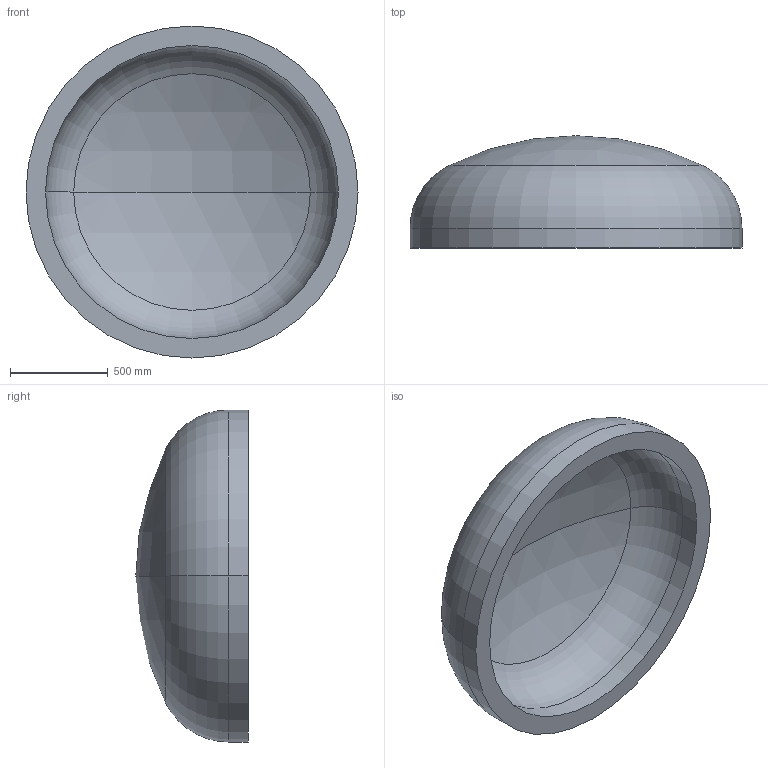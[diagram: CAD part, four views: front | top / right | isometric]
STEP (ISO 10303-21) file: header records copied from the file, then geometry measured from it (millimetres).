
FILE_DESCRIPTION (( 'STEP AP203' ), '1' );
FILE_NAME ('DIN 28013 Korbbogenform_-_Boden DIN 28013 - 1700 x 100 - I - s=100.step', '2016-07-01T12:07:51', ( '' ), ( '' ), 'SwSTEP 2.0', 'SolidWorks 2013', '' );
FILE_SCHEMA (( 'CONFIG_CONTROL_DESIGN' ));
Length unit declared in the file: millimetre
Products named in the file (1): DIN 28013 Korbbogenform_-_Boden DIN 28013 - 1700 x 100 - I - s=100
Bounding box: 1700 x 575.16 x 1700 mm (x, y, z)
Volume: 341485742.8 mm3; surface area: 7353311.9 mm2
Topology: 1 solids, 1 shells, 13 faces, 24 edges, 14 vertices
Faces by surface type: torus 4, cylinder 4, sphere 4, plane 1
Entity records: 407 total; most frequent: DIRECTION 72, CARTESIAN_POINT 52, ORIENTED_EDGE 48, AXIS2_PLACEMENT_3D 34, EDGE_CURVE 24, CIRCLE 20, VERTEX_POINT 14, EDGE_LOOP 14
